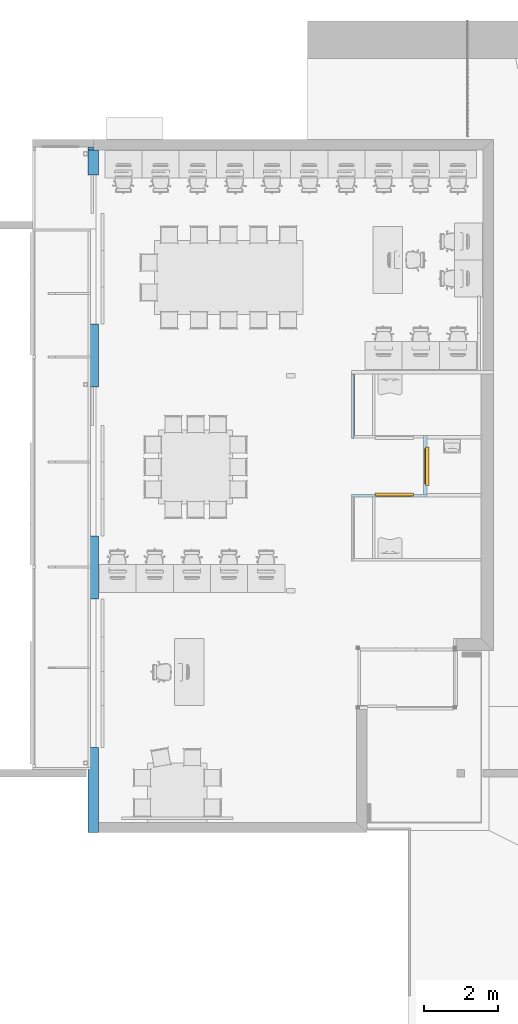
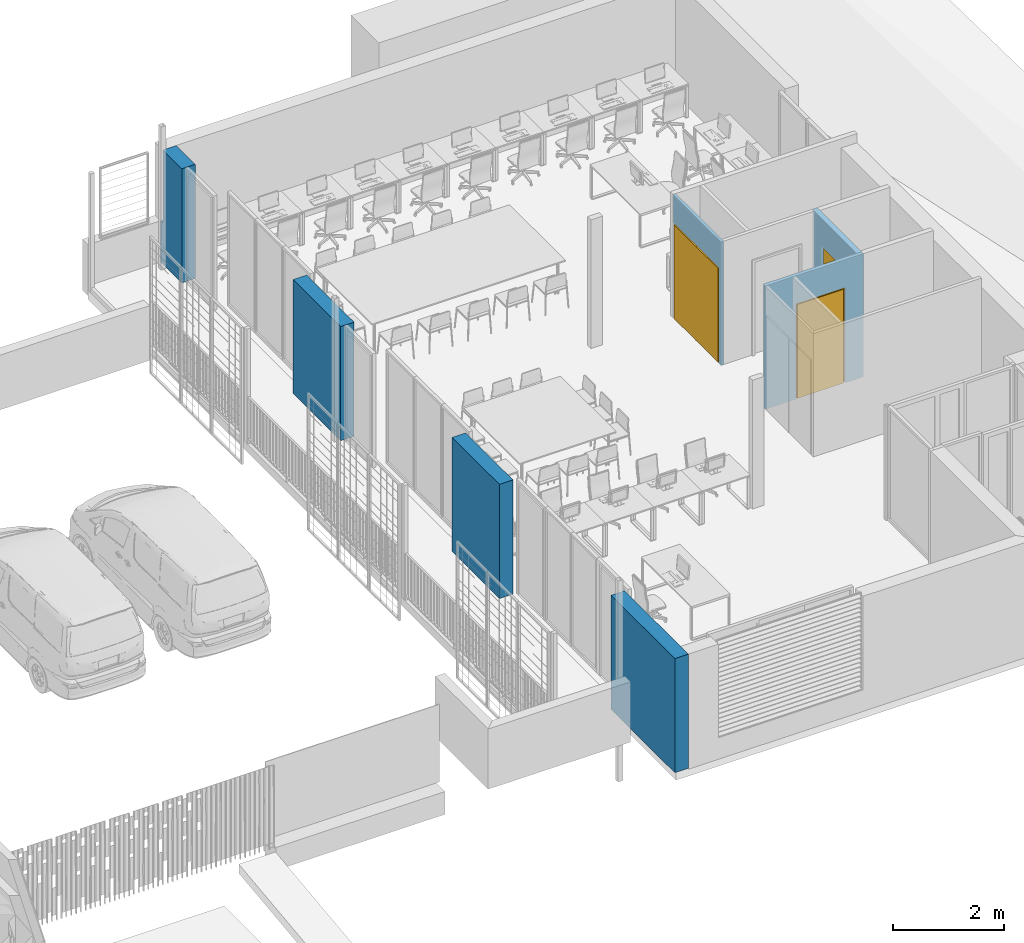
# One storey, part 26 of 51: 3 doors, 1 wall, 3 openings, plus 3 elements that do not belong to this part.
"""IFC2X3 building model written with IfcOpenShell, lengths in metres."""

import ifcopenshell
import ifcopenshell.guid

model = None  # the IFC model being written
_history = None  # IfcOwnerHistory: only IFC2X3 demands one
_inside = {}  # id of a spatial element -> (the spatial element, [elements in it])
_under = {}  # id of a project, library or spatial element -> (it, [spatial elements below it])
_declared = {}  # id of a project -> (the project, [libraries it declares])
_typed = {}  # id of a type object -> (the type object, [elements of that type])
_made_of = {}  # id of a material, layer set ... -> (it, [elements and type objects made of it])


def new_model(schema):
    """Start an empty IFC model of exactly this schema.

    Asked for "IFC4X3", IfcOpenShell would pick the latest addendum, in which some entities
    have other attributes; the version numbers below select the first issue.
    IFC2X3 requires an IfcOwnerHistory on every rooted entity: one is made here for all.
    """
    global model, _history
    if schema == "IFC4X3":
        model = ifcopenshell.file(schema_version=(4, 3, 0, 0))
    else:
        model = ifcopenshell.file(schema=schema)
    _inside.clear()
    _under.clear()
    _declared.clear()
    _typed.clear()
    _made_of.clear()
    _history = None
    if model.schema == "IFC2X3":
        org = make("IfcOrganization", Name="unknown")
        user = make(
            "IfcPersonAndOrganization",
            ThePerson=make("IfcPerson", FamilyName="unknown"),
            TheOrganization=org,
        )
        app = make(
            "IfcApplication",
            ApplicationDeveloper=org,
            Version="unknown",
            ApplicationFullName="unknown",
            ApplicationIdentifier="unknown",
        )
        _history = make(
            "IfcOwnerHistory",
            OwningUser=user,
            OwningApplication=app,
            ChangeAction="ADDED",
            CreationDate=0,
        )
    return model


def make(cls, **values):
    """One entity of the class cls with the attributes given. An attribute that is None is left unset."""
    return model.create_entity(
        cls, **{name: value for name, value in values.items() if value is not None}
    )


def entity(cls, *values):
    """Any entity or typed value of the class cls, its attributes in the order of the schema. None: left unset."""
    e = model.create_entity(cls)
    for i, value in enumerate(values):
        if value is not None:
            e[i] = value
    return e


def rooted(cls, **values):
    """An entity with a GlobalId (a new one), such as an element, a storey or a relation."""
    return make(cls, GlobalId=ifcopenshell.guid.new(), OwnerHistory=_history, **values)


def si_unit(unit_type, name, prefix=None):
    """IfcSIUnit, for example si_unit("LENGTHUNIT", "METRE", prefix="MILLI")."""
    return make("IfcSIUnit", UnitType=unit_type, Prefix=prefix, Name=name)


def converted_unit(unit_type, name, factor, base, dimensions=None, offset=None):
    """IfcConversionBasedUnit, such as the inch: factor (a typed value) times the base unit."""
    return make(
        "IfcConversionBasedUnit"
        if offset is None
        else "IfcConversionBasedUnitWithOffset",
        ConversionOffset=offset,
        Dimensions=None
        if dimensions is None
        else entity("IfcDimensionalExponents", *dimensions),
        UnitType=unit_type,
        Name=name,
        ConversionFactor=make(
            "IfcMeasureWithUnit", ValueComponent=factor, UnitComponent=base
        ),
    )


def derived_unit(unit_type, elements):
    """IfcDerivedUnit: a product of units, each with its exponent."""
    return make(
        "IfcDerivedUnit",
        Elements=[
            make("IfcDerivedUnitElement", Unit=unit, Exponent=power)
            for unit, power in elements
        ],
        UnitType=unit_type,
    )


def assignment(units):
    """IfcUnitAssignment: the units of a project."""
    return None if units is None else make("IfcUnitAssignment", Units=units)


def point(xyz):
    """IfcCartesianPoint."""
    return None if xyz is None else make("IfcCartesianPoint", Coordinates=xyz)


def direction(xyz):
    """IfcDirection."""
    return None if xyz is None else make("IfcDirection", DirectionRatios=xyz)


def frame(location, z_axis=None, x_axis=None):
    """IfcAxis2Placement3D, a coordinate frame: its origin and axes. An axis left out is left unset."""
    return make(
        "IfcAxis2Placement3D",
        Location=point(location),
        Axis=direction(z_axis),
        RefDirection=direction(x_axis),
    )


def frame_2d(location, x_axis=None):
    """IfcAxis2Placement2D, a coordinate frame in the plane: its origin and x axis."""
    return make(
        "IfcAxis2Placement2D", Location=point(location), RefDirection=direction(x_axis)
    )


def origin():
    """The frame at (0, 0, 0) with its axes left unset."""
    return frame((0.0, 0.0, 0.0))


def origin_2d_with_axis():
    """The frame at (0, 0) in the plane with the x axis (1, 0) written out."""
    return frame_2d((0.0, 0.0), x_axis=(1.0, 0.0))


def place(relative_to, where):
    """IfcLocalPlacement: puts the frame where relative to a parent placement (None: the world)."""
    return make(
        "IfcLocalPlacement", PlacementRelTo=relative_to, RelativePlacement=where
    )


def context(
    kind, dimensions, precision=None, world=None, true_north=None, identifier=None
):
    """IfcGeometricRepresentationContext, for example the 3D "Model" context."""
    return make(
        "IfcGeometricRepresentationContext",
        ContextIdentifier=identifier,
        ContextType=kind,
        CoordinateSpaceDimension=dimensions,
        Precision=precision,
        WorldCoordinateSystem=world,
        TrueNorth=true_north,
    )


def subcontext(parent, identifier, kind, view, scale=None):
    """IfcGeometricRepresentationSubContext, for example "Body" below "Model"."""
    return make(
        "IfcGeometricRepresentationSubContext",
        ContextIdentifier=identifier,
        ContextType=kind,
        ParentContext=parent,
        TargetScale=scale,
        TargetView=view,
    )


def project(units=None, contexts=None):
    """IfcProject with its units and contexts."""
    return rooted(
        "IfcProject",
        Name="project",
        RepresentationContexts=contexts,
        UnitsInContext=assignment(units),
    )


def spatial(cls, under=None, at=None, **own):
    """A site, building, storey or space (cls), placed at a placement, below another one or the project."""
    s = rooted(cls, ObjectPlacement=at, **own)
    if under is not None:
        _under.setdefault(under.id(), (under, []))[1].append(s)
    return s


def profile(cls, at=None, kind="AREA", **sizes):
    """A parametric profile (cls). Its sizes go by their IFC names, for example OverallWidth=200.0."""
    return make(cls, ProfileType=kind, Position=at, **sizes)


def rectangle(**sizes):
    """IfcRectangleProfileDef."""
    return profile("IfcRectangleProfileDef", **sizes)


def extrude(swept, where, along, depth):
    """IfcExtrudedAreaSolid: the profile swept, set in the frame where, extruded along a direction by depth."""
    return make(
        "IfcExtrudedAreaSolid",
        SweptArea=swept,
        Position=where,
        ExtrudedDirection=direction(along),
        Depth=depth,
    )


def faces_of(points, faces, orient=None, outer=None):
    """IfcFace entities. A face is a list of loops; a loop is a list of indices into points, from 0.

    orient and outer hold one flag for each loop. By default every Orientation is true, the
    first loop of a face is its IfcFaceOuterBound and the others are IfcFaceBound.
    """
    made = []
    for i, loops in enumerate(faces):
        bounds = []
        for j, loop in enumerate(loops):
            is_outer = j == 0 if outer is None else outer[i][j]
            bounds.append(
                make(
                    "IfcFaceOuterBound" if is_outer else "IfcFaceBound",
                    Bound=make("IfcPolyLoop", Polygon=[points[k] for k in loop]),
                    Orientation=True if orient is None else orient[i][j],
                )
            )
        made.append(make("IfcFace", Bounds=bounds))
    return made


def faceted_brep(points, faces, orient=None, outer=None, voids=None):
    """IfcFacetedBrep: a solid bounded by flat faces; with voids (closed shells), ...WithVoids."""
    shared = [point(p) for p in points]
    hull = make("IfcClosedShell", CfsFaces=faces_of(shared, faces, orient, outer))
    if voids is None:
        return make("IfcFacetedBrep", Outer=hull)
    return make(
        "IfcFacetedBrepWithVoids",
        Outer=hull,
        Voids=[
            make(cls, CfsFaces=faces_of(shared, fs, o, b)) for cls, fs, o, b in voids
        ],
    )


def shape(context_of_items, identifier, shape_type, items):
    """IfcShapeRepresentation: the items that make up one representation, for example the "Body"."""
    return make(
        "IfcShapeRepresentation",
        ContextOfItems=context_of_items,
        RepresentationIdentifier=identifier,
        RepresentationType=shape_type,
        Items=items,
    )


def source(mapping_origin, context_of_items, identifier, shape_type, items):
    """IfcRepresentationMap: a shape defined once, which mapped items show again and again."""
    return make(
        "IfcRepresentationMap",
        MappingOrigin=mapping_origin,
        MappedRepresentation=shape(context_of_items, identifier, shape_type, items),
    )


def transform(
    local_origin,
    x_axis=None,
    y_axis=None,
    z_axis=None,
    scale=None,
    scale2=None,
    scale3=None,
    uniform=True,
):
    """IfcCartesianTransformationOperator3D, or its non-uniform kind. x_axis, y_axis, z_axis: its Axis1, 2, 3."""
    if uniform:
        return make(
            "IfcCartesianTransformationOperator3D",
            Axis1=direction(x_axis),
            Axis2=direction(y_axis),
            LocalOrigin=point(local_origin),
            Scale=scale,
            Axis3=direction(z_axis),
        )
    return make(
        "IfcCartesianTransformationOperator3DnonUniform",
        Axis1=direction(x_axis),
        Axis2=direction(y_axis),
        LocalOrigin=point(local_origin),
        Scale=scale,
        Axis3=direction(z_axis),
        Scale2=scale2,
        Scale3=scale3,
    )


def mapped(mapping_source, mapping_target):
    """IfcMappedItem: shows the shape of a source again, moved by a transform."""
    return make(
        "IfcMappedItem", MappingSource=mapping_source, MappingTarget=mapping_target
    )


def material(Name=None, Category=None):
    """IfcMaterial."""
    return make("IfcMaterial", Name=Name, Category=Category)


def layer(
    of_material, thickness, ventilated=None, Name=None, Category=None, Priority=None
):
    """IfcMaterialLayer: one layer of a wall or slab, of a material (None: an air gap)."""
    return make(
        "IfcMaterialLayer",
        Material=of_material,
        LayerThickness=thickness,
        IsVentilated=ventilated,
        Name=Name,
        Category=Category,
        Priority=Priority,
    )


def layer_set(layers, Name=None):
    """IfcMaterialLayerSet."""
    return make("IfcMaterialLayerSet", MaterialLayers=layers, LayerSetName=Name)


def layer_usage(for_layer_set, set_direction, sense, offset, extent=None):
    """IfcMaterialLayerSetUsage: how a layer set lies in its element."""
    return make(
        "IfcMaterialLayerSetUsage",
        ForLayerSet=for_layer_set,
        LayerSetDirection=set_direction,
        DirectionSense=sense,
        OffsetFromReferenceLine=offset,
        ReferenceExtent=extent,
    )


def made_of(thing, what):
    """Note that an element or type object is made of a material, layer set ...; save() writes the relation."""
    if what is not None:
        _made_of.setdefault(what.id(), (what, []))[1].append(thing)
    return thing


def type_object(cls, material=None, **own):
    """A type object (cls), such as IfcWallType, which elements share."""
    return made_of(rooted(cls, **own), material)


def type_shapes(of_type, sources):
    """Give a type object the sources (RepresentationMaps) that its elements show as mapped items."""
    of_type.RepresentationMaps = sources


def element(
    cls,
    number,
    at=None,
    inside=None,
    cuts=None,
    type_object=None,
    material=None,
    context=None,
    identifier="Body",
    shape_type=None,
    held_by="IfcProductDefinitionShape",
    body=None,
    shapes=None,
    **own,
):
    """One element of the class cls, such as IfcWall. Its Tag is "e" and its number.

    at: its placement. inside: the storey or other place that contains it. cuts: it is an
    opening in that element (IfcRelVoidsElement). A single representation is given by context,
    identifier, shape_type and body (its items); several are given by shapes. held_by: the class
    of the entity that holds the representations. save() writes the other relations.
    """
    e = rooted(cls, Tag="e%d" % number, ObjectPlacement=at, **own)
    if body is not None:
        shapes = [shape(context, identifier, shape_type, body)]
    if shapes is not None:
        e.Representation = make(held_by, Representations=shapes)
    if inside is not None:
        _inside.setdefault(inside.id(), (inside, []))[1].append(e)
    if cuts is not None:
        rooted(
            "IfcRelVoidsElement", RelatingBuildingElement=cuts, RelatedOpeningElement=e
        )
    if type_object is not None:
        _typed.setdefault(type_object.id(), (type_object, []))[1].append(e)
    return made_of(e, material)


def fill(opening, filler):
    """IfcRelFillsElement: the door or window that sits in an opening."""
    return rooted(
        "IfcRelFillsElement",
        RelatingOpeningElement=opening,
        RelatedBuildingElement=filler,
    )


def aggregate(whole, parts):
    """IfcRelAggregates: a whole, such as a stair, and the parts it consists of."""
    return rooted("IfcRelAggregates", RelatingObject=whole, RelatedObjects=parts)


def save(model, path):
    """Write the relations noted so far, then the file.

    IfcRelAggregates (storeys below a building ...), IfcRelContainedInSpatialStructure (elements
    in a storey), IfcRelDefinesByType, IfcRelAssociatesMaterial and IfcRelDeclares: one each for
    every whole, place, type object, material and project.
    """
    for whole, parts in _under.values():
        aggregate(whole, parts)
    for where, things in _inside.values():
        rooted(
            "IfcRelContainedInSpatialStructure",
            RelatedElements=things,
            RelatingStructure=where,
        )
    for kind, things in _typed.values():
        rooted("IfcRelDefinesByType", RelatedObjects=things, RelatingType=kind)
    for what, things in _made_of.values():
        rooted("IfcRelAssociatesMaterial", RelatedObjects=things, RelatingMaterial=what)
    for by, libraries in _declared.values():
        rooted("IfcRelDeclares", RelatingContext=by, RelatedDefinitions=libraries)
    model.write(path)


model = new_model("IFC2X3")

# Units and contexts
model_context = context("Model", 3, precision=1e-05, world=origin(), true_north=direction((6.123031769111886e-17, 1.0)))
body_context = subcontext(model_context, "Body", "Model", "MODEL_VIEW")
ifc_project = project(units=[si_unit("LENGTHUNIT", "METRE"), si_unit("AREAUNIT", "SQUARE_METRE"), si_unit("VOLUMEUNIT", "CUBIC_METRE"), converted_unit("PLANEANGLEUNIT", "DEGREE", entity("IfcRatioMeasure", 0.017453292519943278), si_unit("PLANEANGLEUNIT", "RADIAN"), dimensions=[0, 0, 0, 0, 0, 0, 0]), si_unit("MASSUNIT", "GRAM", prefix="KILO"), derived_unit("MASSDENSITYUNIT", [(si_unit("MASSUNIT", "GRAM", prefix="KILO"), 1), (si_unit("LENGTHUNIT", "METRE"), -3)]), derived_unit("MOMENTOFINERTIAUNIT", [(si_unit("LENGTHUNIT", "METRE"), 4)]), si_unit("TIMEUNIT", "SECOND"), si_unit("FREQUENCYUNIT", "HERTZ"), si_unit("THERMODYNAMICTEMPERATUREUNIT", "DEGREE_CELSIUS"), derived_unit("THERMALTRANSMITTANCEUNIT", [(si_unit("MASSUNIT", "GRAM", prefix="KILO"), 1), (si_unit("THERMODYNAMICTEMPERATUREUNIT", "KELVIN"), -1), (si_unit("TIMEUNIT", "SECOND"), -3)]), derived_unit("THERMALCONDUCTANCEUNIT", [(si_unit("MASSUNIT", "GRAM", prefix="KILO"), 1), (si_unit("LENGTHUNIT", "METRE"), 1), (si_unit("THERMODYNAMICTEMPERATUREUNIT", "KELVIN"), -1), (si_unit("TIMEUNIT", "SECOND"), -3)]), derived_unit("VOLUMETRICFLOWRATEUNIT", [(si_unit("LENGTHUNIT", "METRE"), 3), (si_unit("TIMEUNIT", "SECOND"), -1)]), derived_unit("MASSFLOWRATEUNIT", [(si_unit("MASSUNIT", "GRAM", prefix="KILO"), 1), (si_unit("TIMEUNIT", "SECOND"), -1)]), derived_unit("ROTATIONALFREQUENCYUNIT", [(si_unit("TIMEUNIT", "SECOND"), -1)]), si_unit("ELECTRICCURRENTUNIT", "AMPERE"), si_unit("ELECTRICVOLTAGEUNIT", "VOLT"), si_unit("POWERUNIT", "WATT"), si_unit("FORCEUNIT", "NEWTON", prefix="KILO"), si_unit("ILLUMINANCEUNIT", "LUX"), si_unit("LUMINOUSFLUXUNIT", "LUMEN"), si_unit("LUMINOUSINTENSITYUNIT", "CANDELA"), derived_unit("USERDEFINED", [(si_unit("MASSUNIT", "GRAM", prefix="KILO"), -1), (si_unit("LENGTHUNIT", "METRE"), -2), (si_unit("TIMEUNIT", "SECOND"), 3), (si_unit("LUMINOUSFLUXUNIT", "LUMEN"), 1)]), derived_unit("USERDEFINED", [(si_unit("MASSUNIT", "GRAM", prefix="KILO"), 1), (si_unit("LENGTHUNIT", "METRE"), 3), (si_unit("TIMEUNIT", "SECOND"), -3), (si_unit("ELECTRICCURRENTUNIT", "AMPERE"), -2)]), derived_unit("USERDEFINED", [(si_unit("LENGTHUNIT", "METRE"), 2), (si_unit("TIMEUNIT", "SECOND"), -2)]), derived_unit("SOUNDPOWERUNIT", [(si_unit("MASSUNIT", "GRAM", prefix="KILO"), 1), (si_unit("LENGTHUNIT", "METRE"), 2), (si_unit("TIMEUNIT", "SECOND"), -3)]), derived_unit("SOUNDPRESSUREUNIT", [(si_unit("MASSUNIT", "GRAM", prefix="KILO"), 1), (si_unit("LENGTHUNIT", "METRE"), -1), (si_unit("TIMEUNIT", "SECOND"), -2)]), derived_unit("LINEARVELOCITYUNIT", [(si_unit("LENGTHUNIT", "METRE"), 1), (si_unit("TIMEUNIT", "SECOND"), -1)]), si_unit("PRESSUREUNIT", "PASCAL"), derived_unit("USERDEFINED", [(si_unit("LENGTHUNIT", "METRE"), -2), (si_unit("MASSUNIT", "GRAM", prefix="KILO"), 1), (si_unit("TIMEUNIT", "SECOND"), -2)]), derived_unit("LINEARFORCEUNIT", [(si_unit("MASSUNIT", "GRAM", prefix="KILO"), 1), (si_unit("LENGTHUNIT", "METRE"), 1), (si_unit("TIMEUNIT", "SECOND"), -2), (si_unit("LENGTHUNIT", "METRE"), -1)]), derived_unit("PLANARFORCEUNIT", [(si_unit("MASSUNIT", "GRAM", prefix="KILO"), 1), (si_unit("LENGTHUNIT", "METRE"), 1), (si_unit("TIMEUNIT", "SECOND"), -2), (si_unit("LENGTHUNIT", "METRE"), -2)]), derived_unit("SPECIFICHEATCAPACITYUNIT", [(si_unit("LENGTHUNIT", "METRE"), 2), (si_unit("TIMEUNIT", "SECOND"), -2), (si_unit("THERMODYNAMICTEMPERATUREUNIT", "KELVIN"), -1)]), derived_unit("VAPORPERMEABILITYUNIT", [(si_unit("TIMEUNIT", "SECOND"), 1), (si_unit("LENGTHUNIT", "METRE"), -1)]), derived_unit("DYNAMICVISCOSITYUNIT", [(si_unit("MASSUNIT", "GRAM", prefix="KILO"), 1), (si_unit("LENGTHUNIT", "METRE"), -1), (si_unit("TIMEUNIT", "SECOND"), -1)]), derived_unit("THERMALEXPANSIONCOEFFICIENTUNIT", [(si_unit("THERMODYNAMICTEMPERATUREUNIT", "KELVIN"), -1)])], contexts=[model_context])

# Site, building, storey
site_placement = place(None, origin())
site = spatial("IfcSite", under=ifc_project, at=site_placement, Name="Default", CompositionType="ELEMENT")
building_placement = place(site_placement, origin())
building = spatial("IfcBuilding", under=site, at=building_placement, CompositionType="ELEMENT")
storey_placement = place(building_placement, frame((0.0, 0.0, 3.06)))
storey = spatial("IfcBuildingStorey", under=building, at=storey_placement, Name="ÉTAGE", CompositionType="ELEMENT", Elevation=3.06)

# Wall, opening, door
ifc_material_1 = material(Name="Plâtre - Plaques de plâtre")
ifc_layer_1 = layer(ifc_material_1, 0.013)
ifc_material_2 = material(Name="Isolation - Fibre de verre")
ifc_layer_2 = layer(ifc_material_2, 0.044)
ifc_layer_3 = layer(ifc_material_1, 0.013)
ifc_layer_set_1 = layer_set([ifc_layer_1, ifc_layer_2, ifc_layer_3], Name="Mur de base:ABA cloison 7cm 70")
ifc_layer_usage_1 = layer_usage(ifc_layer_set_1, "AXIS2", "NEGATIVE", 0.034999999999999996)
wall_type_1 = type_object("IfcWallType", Name="Mur de base:ABA cloison 7cm 70", PredefinedType="STANDARD", material=ifc_layer_set_1)
wall_1_placement = place(storey_placement, frame((150.52075226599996, 16.6522094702, 1.21), z_axis=(0.0, 0.0, 1.0), x_axis=(-1.0, 0.0, 0.0)))
wall_1 = element("IfcWallStandardCase", 1, at=wall_1_placement, inside=storey, type_object=wall_type_1, material=ifc_layer_usage_1, Name="MurExt-014", ObjectType="Mur de base:ABA cloison 7cm 70", context=body_context, shape_type="SweptSolid", body=[
    extrude(rectangle(XDim=2.030000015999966, YDim=0.07000000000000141, at=frame_2d((1.015000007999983, 0.0), x_axis=(-1.0, 0.0))), origin(), (0.0, 0.0, 1.0), 2.7000000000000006),
])
opening_1_placement = place(wall_1_placement, frame((150.52075226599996, 16.6522094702, -1.2099999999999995), z_axis=(0.0, 0.0, 1.0), x_axis=(-1.0, 0.0, 0.0)))
opening_1 = element("IfcOpeningElement", 2, at=opening_1_placement, cuts=wall_1, Name="MurExt-014", ObjectType="Opening", context=body_context, shape_type="SweptSolid", body=[
    extrude(rectangle(XDim=2.089999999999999, YDim=1.0300000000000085, at=origin_2d_with_axis()), frame((149.63575226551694, 16.7236094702, 2.254999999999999), z_axis=(0.0, -1.0, 0.0), x_axis=(0.0, 0.0, 1.0)), (0.0, 0.0, 1.0), 0.14279999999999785),
])
ifc_material_3 = material(Name="Peinture - Gris clair")
door_style_1 = type_object("IfcDoorStyle", Name="Por-004", ConstructionType="NOTDEFINED", OperationType="SINGLE_SWING_RIGHT", ParameterTakesPrecedence=False, Sizeable=False, material=ifc_material_3)
shared_shape_1 = source(origin(), body_context, "Body", "Brep", [
    faceted_brep([(1.0299999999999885, -0.07139999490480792, 0.0), (0.9949999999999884, -0.07139999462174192, 0.0), (0.9949999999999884, -0.07139999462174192, 2.0549999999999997), (0.03499999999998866, -0.0713999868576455, 2.0549999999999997), (0.03499999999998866, -0.0713999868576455, 0.0), (0.0, -0.07139998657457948, 0.0), (0.0, -0.07139998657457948, 2.089999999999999), (1.0299999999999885, -0.07139999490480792, 2.089999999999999), (1.0299999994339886, -0.1413999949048, 0.0), (0.9799999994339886, -0.1413999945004, 0.0), (0.9799999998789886, -0.08639999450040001, 0.0), (0.9949999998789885, -0.0863999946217, 0.0), (0.9949999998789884, -0.0863999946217, 2.0549999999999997), (0.03499999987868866, -0.0863999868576, 2.0549999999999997), (0.03499999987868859, -0.0863999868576, 0.0), (0.04999999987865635, -0.08639998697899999, 0.0), (0.04999999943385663, -0.14139998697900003, 0.0), (0.0, -0.1413999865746, 0.0), (0.0, -0.1413999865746, 2.089999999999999), (1.0299999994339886, -0.14139999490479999, 2.089999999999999), (0.04999999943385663, -0.14139998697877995, 2.0399999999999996), (0.9799999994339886, -0.14139999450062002, 2.0399999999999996), (0.9799999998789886, -0.08639999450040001, 2.0399999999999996), (0.04999999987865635, -0.08639998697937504, 2.0399999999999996), (0.9950000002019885, -0.0463999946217, 0.0), (0.03500000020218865, -0.04639998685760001, 0.0), (0.9950000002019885, -0.0463999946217, 2.0549999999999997), (0.03500000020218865, -0.04639998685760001, 2.0549999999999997)], [[[0, 1, 2, 3, 4, 5, 6, 7]], [[0, 8, 9, 10, 11, 1]], [[1, 11, 12, 2]], [[2, 12, 13, 3]], [[3, 13, 14, 4]], [[5, 4, 14, 15, 16, 17]], [[18, 6, 5, 17]], [[19, 7, 6, 18]], [[8, 0, 7, 19]], [[9, 8, 19, 18, 17, 16, 20, 21]], [[10, 9, 21, 22]], [[11, 10, 22, 23, 15, 14, 13, 12]], [[23, 20, 16, 15]], [[22, 21, 20, 23]], [[24, 11, 14, 25]], [[26, 12, 11, 24]], [[11, 12, 13, 14]], [[25, 14, 13, 27]], [[24, 25, 27, 26]], [[27, 13, 12, 26]]]),
])
type_shapes(door_style_1, [shared_shape_1])
door_1_placement = place(opening_1_placement, frame((150.15075226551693, 16.580809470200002, 1.2099999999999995), z_axis=(0.0, 0.0, 1.0), x_axis=(-1.0, 0.0, 0.0)))
door_1 = element("IfcDoor", 3, at=door_1_placement, inside=storey, type_object=door_style_1, material=ifc_material_3, Name="Por-004 257092:Por-004 257092", ObjectType="Por-004 257092:Por-004 257092", OverallHeight=2.089999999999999, OverallWidth=1.0300000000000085, context=body_context, shape_type="MappedRepresentation", body=[
    mapped(shared_shape_1, transform((0.0, 0.0, 0.0), scale=1.0)),
])
fill(opening_1, door_1)

# Wall
ifc_material_4 = material(Name="Enduit - Jaune nature")
ifc_layer_4 = layer(ifc_material_4, 0.022)
ifc_layer_5 = layer(ifc_material_2, 0.04)
ifc_layer_6 = layer(ifc_material_2, 0.145)
ifc_material_5 = material(Name="Bois - Panneaux de particules")
ifc_layer_7 = layer(ifc_material_5, 0.012)
ifc_material_6 = material(Name="Air - Vide d'air")
ifc_layer_8 = layer(ifc_material_6, 0.048)
ifc_layer_9 = layer(ifc_material_1, 0.013)
ifc_layer_set_2 = layer_set([ifc_layer_4, ifc_layer_5, ifc_layer_6, ifc_layer_7, ifc_layer_8, ifc_layer_9], Name="Mur de base:ABA MOB ITE enduit 280")
wall_type_2 = type_object("IfcWallType", Name="Mur de base:ABA MOB ITE enduit 280", PredefinedType="STANDARD", material=ifc_layer_set_2)
wall_2_placement = place(storey_placement, frame((141.54075228, 7.58720948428, 1.2099999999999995), z_axis=(0.0, 0.0, 1.0), x_axis=(0.0, 1.0, 0.0)))
element("IfcWallStandardCase", 4, at=wall_2_placement, inside=storey, type_object=wall_type_2, Name="MurExt-017", ObjectType="Mur de base:ABA MOB ITE enduit 280", context=body_context, shape_type="Brep", body=[
    faceted_brep([(0.0, -0.14000000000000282, 2.499999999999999), (0.0, -0.14000000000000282, 0.0), (2.2900000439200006, -0.14000000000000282, 0.0), (2.290000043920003, -0.14000000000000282, 2.499999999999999), (0.27999999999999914, -0.14000000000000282, 2.499999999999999), (0.0, 0.14000000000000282, 0.0), (2.2900000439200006, 0.14000000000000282, 0.0), (2.2900000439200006, -0.0027999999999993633, 0.0), (2.2900000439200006, 0.14000000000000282, 2.499999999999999), (2.2900000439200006, -0.0027999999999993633, 2.499999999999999), (0.0, 0.14000000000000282, 2.499999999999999)], [[[0, 1, 2, 3, 4]], [[1, 5, 6, 7, 2]], [[3, 2, 7, 6, 8, 9]], [[1, 0, 10, 5]], [[10, 0, 4, 3, 9, 8]], [[5, 10, 8, 6]]]),
    faceted_brep([(18.45002572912, 0.14000000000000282, 0.0), (17.690000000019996, 0.14000000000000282, 0.0), (17.690000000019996, 0.14000000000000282, 2.499999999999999), (18.37000000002, 0.14000000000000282, 2.499999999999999), (18.37000000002, 0.14000000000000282, 0.9), (18.45002572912, 0.14000000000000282, 0.9), (17.690000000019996, -0.14000000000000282, 2.499999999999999), (18.37000000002, -0.14000000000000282, 2.499999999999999), (17.690000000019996, 0.0027999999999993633, 2.499999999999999), (17.690000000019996, -0.14000000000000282, 0.0), (17.690000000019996, 0.0027999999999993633, 0.0), (18.370000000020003, 0.0, 0.9), (18.45002572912, 0.0, 0.9), (18.370000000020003, -0.14000000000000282, 0.9), (18.370000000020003, -0.14000000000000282, 0.0), (18.370000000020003, 0.0, 0.0), (18.45002572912, 0.0, 0.0)], [[[0, 1, 2, 3, 4, 5]], [[6, 7, 3, 2, 8]], [[9, 6, 8, 2, 1, 10]], [[5, 4, 11, 12]], [[13, 14, 15, 11]], [[15, 16, 12, 11]], [[0, 5, 12, 16]], [[7, 13, 11, 4, 3]], [[14, 9, 10, 1, 0, 16, 15]], [[7, 6, 9, 14, 13]]]),
    faceted_brep([(13.690000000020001, -0.14000000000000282, 2.499999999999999), (13.690000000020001, -0.14000000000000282, 0.0), (13.690000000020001, -0.0027999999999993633, 0.0), (13.690000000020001, 0.14000000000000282, 0.0), (13.690000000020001, 0.14000000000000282, 2.499999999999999), (13.690000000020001, -0.0027999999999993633, 2.499999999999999), (11.989951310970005, -0.14000000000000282, 0.0), (11.989951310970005, -0.14000000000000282, 2.499999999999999), (11.989951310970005, 0.0027999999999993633, 2.499999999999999), (11.989951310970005, 0.14000000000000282, 2.499999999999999), (11.989951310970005, 0.14000000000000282, 0.0), (11.989951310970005, 0.0027999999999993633, 0.0)], [[[0, 1, 2, 3, 4, 5]], [[6, 7, 8, 9, 10, 11]], [[0, 5, 4, 9, 8, 7]], [[2, 1, 6, 11, 10, 3]], [[4, 3, 10, 9]], [[1, 0, 7, 6]]]),
    faceted_brep([(7.989951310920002, -0.14000000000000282, 2.499999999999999), (7.989951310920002, -0.14000000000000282, 0.0), (7.989951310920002, -0.0027999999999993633, 0.0), (7.989951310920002, 0.14000000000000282, 0.0), (7.989951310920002, 0.14000000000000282, 2.499999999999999), (7.989951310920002, -0.0027999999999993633, 2.499999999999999), (6.289951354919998, -0.14000000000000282, 0.0), (6.289951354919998, -0.14000000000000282, 2.499999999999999), (6.289951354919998, -0.0027999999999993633, 2.499999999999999), (6.289951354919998, 0.14000000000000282, 2.499999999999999), (6.289951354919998, 0.14000000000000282, 0.0), (6.289951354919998, -0.0027999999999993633, 0.0)], [[[0, 1, 2, 3, 4, 5]], [[6, 7, 8, 9, 10, 11]], [[0, 5, 4, 9, 8, 7]], [[2, 1, 6, 11, 10, 3]], [[4, 3, 10, 9]], [[1, 0, 7, 6]]]),
])

# Wall, opening, door
ifc_layer_10 = layer(ifc_material_1, 0.013)
ifc_layer_11 = layer(ifc_material_1, 0.013)
ifc_layer_12 = layer(ifc_material_2, 0.048)
ifc_layer_13 = layer(ifc_material_1, 0.013)
ifc_layer_14 = layer(ifc_material_1, 0.013)
ifc_layer_set_3 = layer_set([ifc_layer_10, ifc_layer_11, ifc_layer_12, ifc_layer_13, ifc_layer_14], Name="Mur de base:ABA cloison 10cm 100")
ifc_layer_usage_2 = layer_usage(ifc_layer_set_3, "AXIS2", "NEGATIVE", 0.05)
wall_type_3 = type_object("IfcWallType", Name="Mur de base:ABA cloison 10cm 100", PredefinedType="STANDARD", material=ifc_layer_set_3)
wall_3_placement = place(storey_placement, frame((150.47075226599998, 16.6872094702, 1.21), z_axis=(0.0, 0.0, 1.0), x_axis=(0.0, 1.0, 0.0)))
wall_3 = element("IfcWallStandardCase", 5, at=wall_3_placement, inside=storey, type_object=wall_type_3, material=ifc_layer_usage_2, Name="MurExt-015", ObjectType="Mur de base:ABA cloison 10cm 100", context=body_context, shape_type="SweptSolid", body=[
    extrude(rectangle(XDim=1.5899999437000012, YDim=0.10000000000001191, at=frame_2d((0.7949999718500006, 0.0), x_axis=(-1.0, 0.0))), origin(), (0.0, 0.0, 1.0), 2.7000000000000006),
])
opening_2_placement = place(wall_3_placement, frame((-16.6872094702, 150.47075226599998, -1.2099999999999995), z_axis=(0.0, 0.0, 1.0), x_axis=(0.0, -1.0, 0.0)))
opening_2 = element("IfcOpeningElement", 6, at=opening_2_placement, cuts=wall_3, Name="MurExt-015", ObjectType="Opening", context=body_context, shape_type="SweptSolid", body=[
    extrude(rectangle(XDim=2.09, YDim=1.0299999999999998, at=frame_2d((0.0, 3.3306690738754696e-16), x_axis=(0.0, 1.0))), frame((150.57275226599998, 17.447209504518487, 2.254999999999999), z_axis=(-1.0, 0.0, 0.0), x_axis=(0.0, 1.0, 0.0)), (0.0, 0.0, 1.0), 0.20399999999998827),
])
door_style_2 = type_object("IfcDoorStyle", Name="Por-003", ConstructionType="NOTDEFINED", OperationType="SINGLE_SWING_LEFT", ParameterTakesPrecedence=False, Sizeable=False, material=ifc_material_3)
shared_shape_2 = source(origin(), body_context, "Body", "Brep", [
    faceted_brep([(0.0, -0.10199999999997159, 0.0), (0.0, -0.10199999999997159, 2.089999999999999), (1.0300000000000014, -0.10199999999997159, 2.089999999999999), (1.0300000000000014, -0.10199999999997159, 0.0), (0.9950000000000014, -0.10199999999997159, 0.0), (0.9950000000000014, -0.10199999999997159, 2.0549999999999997), (0.03499999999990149, -0.10199999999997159, 2.0549999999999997), (0.03499999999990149, -0.10199999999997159, 0.0), (0.0, -0.20200000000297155, 0.0), (0.0, -0.20200000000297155, 2.089999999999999), (1.0299999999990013, -0.2020000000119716, 2.089999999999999), (1.0299999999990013, -0.2020000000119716, 0.0), (0.9799999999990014, -0.20200000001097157, 0.0), (0.9800000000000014, -0.11700000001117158, 0.0), (0.9950000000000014, -0.11700000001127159, 0.0), (0.9950000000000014, -0.11700000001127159, 2.0549999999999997), (0.0349999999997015, -0.11700000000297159, 2.0549999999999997), (0.03499999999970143, -0.11700000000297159, 0.0), (0.04999999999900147, -0.11700000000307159, 0.0), (0.04999999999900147, -0.20200000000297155, 0.0), (0.9799999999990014, -0.20200000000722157, 2.0399999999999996), (0.04999999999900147, -0.20200000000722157, 2.0399999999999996), (0.9800000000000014, -0.11700000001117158, 2.0399999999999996), (0.04999999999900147, -0.11700000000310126, 2.0399999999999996), (0.03500000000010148, -0.07700000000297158, 0.0), (0.9950000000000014, -0.0770000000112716, 0.0), (0.03500000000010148, -0.07700000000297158, 2.0549999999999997), (0.9950000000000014, -0.0770000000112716, 2.0549999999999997)], [[[0, 1, 2, 3, 4, 5, 6, 7]], [[8, 9, 1, 0]], [[9, 10, 2, 1]], [[10, 11, 3, 2]], [[3, 11, 12, 13, 14, 4]], [[5, 4, 14, 15]], [[6, 5, 15, 16]], [[7, 6, 16, 17]], [[0, 7, 17, 18, 19, 8]], [[19, 8, 9, 10, 11, 12, 20, 21]], [[22, 13, 12, 20]], [[17, 16, 15, 14, 13, 22, 23, 18]], [[18, 23, 21, 19]], [[23, 22, 20, 21]], [[24, 25, 14, 17]], [[24, 26, 27, 25]], [[25, 27, 15, 14]], [[17, 14, 15, 16]], [[26, 24, 17, 16]], [[27, 26, 16, 15]]]),
])
type_shapes(door_style_2, [shared_shape_2])
door_2_placement = place(opening_2_placement, frame((150.368752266, 16.932209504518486, 1.2099999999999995), z_axis=(0.0, 0.0, 1.0), x_axis=(0.0, 1.0, 0.0)))
door_2 = element("IfcDoor", 7, at=door_2_placement, inside=storey, type_object=door_style_2, material=ifc_material_3, Name="Por-003 257436:Por-003 257436", ObjectType="Por-003 257436:Por-003 257436", OverallHeight=2.09, OverallWidth=1.0299999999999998, context=body_context, shape_type="MappedRepresentation", body=[
    mapped(shared_shape_2, transform((0.0, 0.0, 0.0), scale=1.0)),
])
fill(opening_2, door_2)

ifc_layer_15 = layer(ifc_material_1, 0.013)
ifc_layer_16 = layer(ifc_material_2, 0.024)
ifc_layer_17 = layer(ifc_material_1, 0.013)
ifc_layer_set_4 = layer_set([ifc_layer_15, ifc_layer_16, ifc_layer_17], Name="Mur de base:ABA cloison 5cm 50")
ifc_layer_usage_3 = layer_usage(ifc_layer_set_4, "AXIS2", "NEGATIVE", 0.024999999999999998)
wall_type_4 = type_object("IfcWallType", Name="Mur de base:ABA cloison 5cm 50", PredefinedType="STANDARD", material=ifc_layer_set_4)
wall_4_placement = place(storey_placement, frame((148.51575225, 18.2072094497, 1.21), z_axis=(0.0, 0.0, 1.0), x_axis=(0.0, 1.0, 0.0)))
wall_4 = element("IfcWallStandardCase", 8, at=wall_4_placement, inside=storey, type_object=wall_type_4, material=ifc_layer_usage_3, Name="MurExt-013", ObjectType="Mur de base:ABA cloison 5cm 50", context=body_context, shape_type="SweptSolid", body=[
    extrude(rectangle(XDim=1.720000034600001, YDim=0.04999999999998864, at=frame_2d((0.8600000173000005, 0.0), x_axis=(-1.0, 0.0))), origin(), (0.0, 0.0, 1.0), 2.7000000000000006),
])
opening_3_placement = place(wall_4_placement, frame((-18.2072094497, 148.51575225, -1.2099999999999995), z_axis=(0.0, 0.0, 1.0), x_axis=(0.0, -1.0, 0.0)))
opening_3 = element("IfcOpeningElement", 9, at=opening_3_placement, cuts=wall_4, Name="MurExt-013", ObjectType="Opening", context=body_context, shape_type="SweptSolid", body=[
    extrude(rectangle(XDim=2.089999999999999, YDim=1.649999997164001, at=frame_2d((0.0, 1.1102230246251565e-15), x_axis=(1.0, 0.0))), frame((148.56675225, 19.102209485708, 2.254999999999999), z_axis=(-1.0, 0.0, 0.0), x_axis=(0.0, 0.0, 1.0)), (0.0, 0.0, 1.0), 0.10200000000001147),
])
door_style_3 = type_object("IfcDoorStyle", Name="Por-004", ConstructionType="NOTDEFINED", OperationType="DOUBLE_DOOR_SINGLE_SWING", ParameterTakesPrecedence=False, Sizeable=False, material=ifc_material_3)
shared_shape_3 = source(origin(), body_context, "Body", "Brep", [
    faceted_brep([(1.6499999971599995, -0.051000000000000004, 0.0), (1.6149999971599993, -0.051000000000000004, 0.0), (1.6149999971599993, -0.051000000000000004, 2.0549999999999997), (0.03499999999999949, -0.051000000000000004, 2.0549999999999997), (0.03499999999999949, -0.051000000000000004, 0.0), (0.0, -0.051000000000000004, 0.0), (0.0, -0.051000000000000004, 2.089999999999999), (1.6499999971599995, -0.051000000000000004, 2.089999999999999), (1.6499999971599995, -0.10100000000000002, 0.0), (1.5999999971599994, -0.10100000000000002, 0.0), (1.5999999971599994, -0.066, 0.0), (1.6149999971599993, -0.066, 0.0), (1.6149999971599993, -0.066, 2.0549999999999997), (0.03499999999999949, -0.066, 2.0549999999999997), (0.03499999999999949, -0.066, 0.0), (0.04999999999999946, -0.066, 0.0), (0.04999999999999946, -0.10100000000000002, 0.0), (0.0, -0.10100000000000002, 0.0), (0.0, -0.10100000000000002, 2.089999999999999), (1.6499999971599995, -0.10100000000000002, 2.089999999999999), (0.04999999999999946, -0.10100000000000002, 2.0399999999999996), (1.5999999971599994, -0.10100000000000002, 2.0399999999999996), (1.5999999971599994, -0.066, 2.0399999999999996), (0.04999999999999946, -0.066, 2.0399999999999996), (0.037499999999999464, -0.026000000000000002, 0.0), (0.8224999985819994, -0.026000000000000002, 0.0), (0.8224999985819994, -0.066, 0.0), (0.037499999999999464, -0.066, 0.0), (0.037499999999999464, -0.026000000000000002, 2.0549999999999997), (0.8224999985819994, -0.026000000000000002, 2.0549999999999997), (0.8224999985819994, -0.066, 2.0549999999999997), (0.037499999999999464, -0.066, 2.0549999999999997), (1.6149999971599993, -0.026000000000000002, 0.0), (0.8249999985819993, -0.066, 0.0), (0.8249999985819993, -0.026000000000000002, 0.0), (1.6149999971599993, -0.026000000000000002, 2.0549999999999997), (0.8249999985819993, -0.066, 2.0549999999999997), (0.8249999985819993, -0.026000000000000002, 2.0549999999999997), (0.8399999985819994, -0.021000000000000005, 0.0), (0.8099999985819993, -0.021000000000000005, 0.0), (0.8099999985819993, -0.021000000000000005, 2.0549999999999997), (0.8399999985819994, -0.021000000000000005, 2.0549999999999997), (0.8399999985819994, -0.026000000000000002, 0.0), (0.8099999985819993, -0.026000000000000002, 0.0), (0.8099999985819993, -0.026000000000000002, 2.0549999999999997), (0.8399999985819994, -0.026000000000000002, 2.0549999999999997)], [[[0, 1, 2, 3, 4, 5, 6, 7]], [[0, 8, 9, 10, 11, 1]], [[1, 11, 12, 2]], [[2, 12, 13, 3]], [[3, 13, 14, 4]], [[5, 4, 14, 15, 16, 17]], [[18, 6, 5, 17]], [[19, 7, 6, 18]], [[8, 0, 7, 19]], [[9, 8, 19, 18, 17, 16, 20, 21]], [[10, 9, 21, 22]], [[11, 10, 22, 23, 15, 14, 13, 12]], [[23, 20, 16, 15]], [[22, 21, 20, 23]], [[24, 25, 26, 27]], [[24, 28, 29, 25]], [[25, 29, 30, 26]], [[27, 26, 30, 31]], [[28, 24, 27, 31]], [[29, 28, 31, 30]], [[32, 11, 33, 34]], [[35, 12, 11, 32]], [[11, 12, 36, 33]], [[34, 33, 36, 37]], [[32, 34, 37, 35]], [[37, 36, 12, 35]], [[38, 39, 40, 41]], [[39, 38, 42, 43]], [[40, 39, 43, 44]], [[41, 40, 44, 45]], [[38, 41, 45, 42]], [[43, 42, 45, 44]]]),
])
type_shapes(door_style_3, [shared_shape_3])
door_3_placement = place(opening_3_placement, frame((148.46475225, 18.277209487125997, 1.2099999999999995), z_axis=(0.0, 0.0, 1.0), x_axis=(0.0, 1.0, 0.0)))
door_3 = element("IfcDoor", 10, at=door_3_placement, inside=storey, type_object=door_style_3, material=ifc_material_3, Name="Por-004 447233:Por-004 447233", ObjectType="Por-004 447233:Por-004 447233", OverallHeight=2.089999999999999, OverallWidth=1.649999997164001, context=body_context, shape_type="MappedRepresentation", body=[
    mapped(shared_shape_3, transform((0.0, 0.0, 0.0), scale=1.0)),
])
fill(opening_3, door_3)

save(model, "model.ifc")
